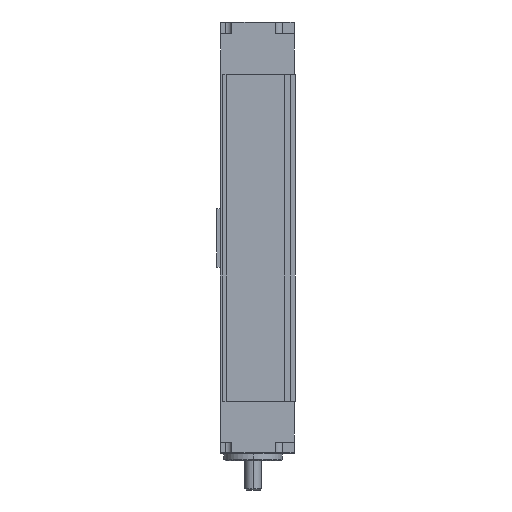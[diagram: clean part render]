
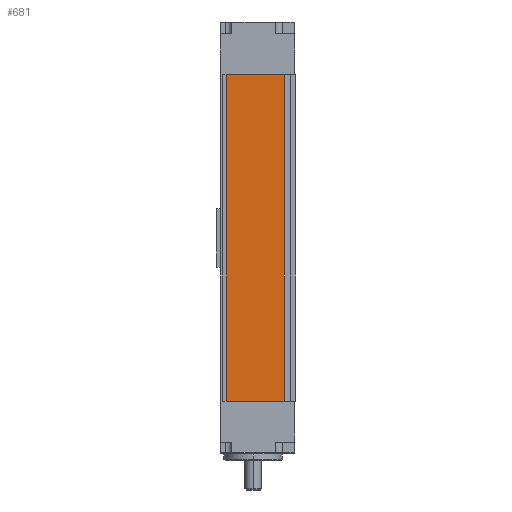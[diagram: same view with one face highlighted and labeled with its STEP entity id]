
A CAD part, left-side view. The second image highlights one B-rep face of the part: STEP entity #681.
In plain terms, the highlighted planar face has unit normal (-1, 0, 0).
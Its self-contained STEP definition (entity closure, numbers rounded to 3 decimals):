
#560 = VERTEX_POINT ( 'NONE', #2464 ) ;
#569 = EDGE_CURVE ( 'NONE', #560, #1483, #2518, .T. ) ;
#650 = ORIENTED_EDGE ( 'NONE', *, *, #569, .T. ) ;
#653 = ORIENTED_EDGE ( 'NONE', *, *, #670, .F. ) ;
#670 = EDGE_CURVE ( 'NONE', #1258, #1483, #2410, .T. ) ;
#675 = ORIENTED_EDGE ( 'NONE', *, *, #677, .T. ) ;
#677 = EDGE_CURVE ( 'NONE', #1255, #560, #2718, .T. ) ;
#681 = ADVANCED_FACE ( 'NONE', ( #2703 ), #2695, .F. ) ;
#690 = EDGE_LOOP ( 'NONE', ( #653, #703, #675, #650 ) ) ;
#703 = ORIENTED_EDGE ( 'NONE', *, *, #8527, .F. ) ;
#1255 = VERTEX_POINT ( 'NONE', #3669 ) ;
#1258 = VERTEX_POINT ( 'NONE', #3665 ) ;
#1483 = VERTEX_POINT ( 'NONE', #4068 ) ;
#2410 = LINE ( 'NONE', #2418, #2434 ) ;
#2417 = DIRECTION ( 'NONE',  ( 0., 0., -1. ) ) ;
#2418 = CARTESIAN_POINT ( 'NONE',  ( -75., -26.9, 280. ) ) ;
#2434 = VECTOR ( 'NONE', #2417, 1000. ) ;
#2464 = CARTESIAN_POINT ( 'NONE',  ( -75., 23.2, 0. ) ) ;
#2501 = DIRECTION ( 'NONE',  ( 0., -1., 0. ) ) ;
#2502 = VECTOR ( 'NONE', #2501, 1000. ) ;
#2503 = CARTESIAN_POINT ( 'NONE',  ( -75., -36., 0. ) ) ;
#2518 = LINE ( 'NONE', #2503, #2502 ) ;
#2687 = DIRECTION ( 'NONE',  ( 0., 0., -1. ) ) ;
#2688 = DIRECTION ( 'NONE',  ( 1., 0., 0. ) ) ;
#2689 = CARTESIAN_POINT ( 'NONE',  ( -75., -36., 280. ) ) ;
#2690 = AXIS2_PLACEMENT_3D ( 'NONE', #2689, #2688, #2687 ) ;
#2695 = PLANE ( 'NONE',  #2690 ) ;
#2703 = FACE_OUTER_BOUND ( 'NONE', #690, .T. ) ;
#2704 = DIRECTION ( 'NONE',  ( 0., 0., -1. ) ) ;
#2705 = VECTOR ( 'NONE', #2704, 1000. ) ;
#2717 = CARTESIAN_POINT ( 'NONE',  ( -75., 23.2, 280. ) ) ;
#2718 = LINE ( 'NONE', #2717, #2705 ) ;
#3665 = CARTESIAN_POINT ( 'NONE',  ( -75., -26.9, 280. ) ) ;
#3669 = CARTESIAN_POINT ( 'NONE',  ( -75., 23.2, 280. ) ) ;
#4068 = CARTESIAN_POINT ( 'NONE',  ( -75., -26.9, 0. ) ) ;
#6187 = DIRECTION ( 'NONE',  ( 0., -1., 0. ) ) ;
#6188 = VECTOR ( 'NONE', #6187, 1000. ) ;
#6189 = CARTESIAN_POINT ( 'NONE',  ( -75., -36., 280. ) ) ;
#6195 = LINE ( 'NONE', #6189, #6188 ) ;
#8527 = EDGE_CURVE ( 'NONE', #1255, #1258, #6195, .T. ) ;
